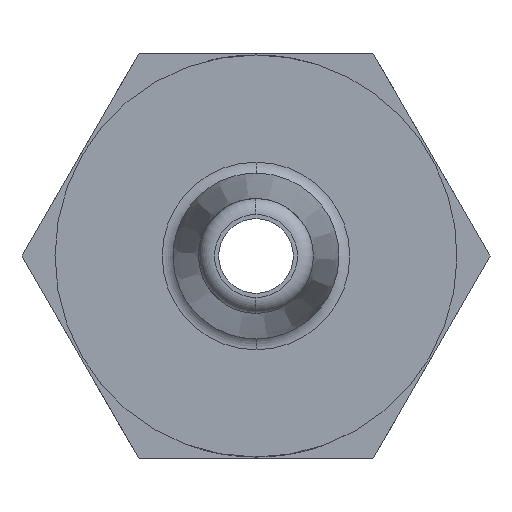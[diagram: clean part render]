
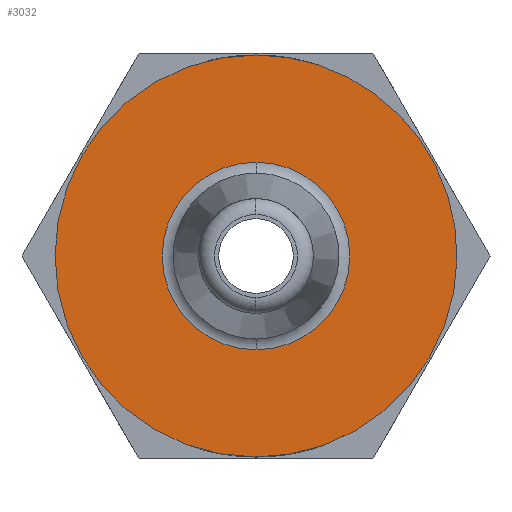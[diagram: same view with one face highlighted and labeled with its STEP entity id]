
A CAD part, left-side view. The second image highlights one B-rep face of the part: STEP entity #3032.
In plain terms, the highlighted planar face has unit normal (-1, 0, 0).
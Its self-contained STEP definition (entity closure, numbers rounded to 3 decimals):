
#69=PLANE('',#3320);
#172=FACE_BOUND('',#503,.T.);
#319=FACE_OUTER_BOUND('',#502,.T.);
#502=EDGE_LOOP('',(#2302,#2303));
#503=EDGE_LOOP('',(#2304,#2305));
#681=CIRCLE('',#3227,3.15);
#682=CIRCLE('',#3228,3.15);
#719=CIRCLE('',#3276,1.469);
#749=CIRCLE('',#3321,1.469);
#1293=VERTEX_POINT('',#4903);
#1294=VERTEX_POINT('',#4905);
#1418=VERTEX_POINT('',#5801);
#1419=VERTEX_POINT('',#5802);
#1618=EDGE_CURVE('',#1294,#1293,#681,.T.);
#1619=EDGE_CURVE('',#1293,#1294,#682,.T.);
#1747=EDGE_CURVE('',#1418,#1419,#719,.T.);
#1797=EDGE_CURVE('',#1419,#1418,#749,.T.);
#2302=ORIENTED_EDGE('',*,*,#1618,.T.);
#2303=ORIENTED_EDGE('',*,*,#1619,.T.);
#2304=ORIENTED_EDGE('',*,*,#1797,.T.);
#2305=ORIENTED_EDGE('',*,*,#1747,.T.);
#3032=ADVANCED_FACE('',(#319,#172),#69,.F.);
#3227=AXIS2_PLACEMENT_3D('',#4906,#3549,#3550);
#3228=AXIS2_PLACEMENT_3D('',#4907,#3551,#3552);
#3276=AXIS2_PLACEMENT_3D('',#5803,#3685,#3686);
#3320=AXIS2_PLACEMENT_3D('',#5903,#3792,#3793);
#3321=AXIS2_PLACEMENT_3D('',#5904,#3794,#3795);
#3549=DIRECTION('center_axis',(-1.,0.,0.));
#3550=DIRECTION('ref_axis',(0.,0.,1.));
#3551=DIRECTION('center_axis',(-1.,0.,0.));
#3552=DIRECTION('ref_axis',(0.,0.,1.));
#3685=DIRECTION('center_axis',(1.,0.,0.));
#3686=DIRECTION('ref_axis',(0.,0.,
1.));
#3792=DIRECTION('center_axis',(1.,0.,0.));
#3793=DIRECTION('ref_axis',(0.,0.,-1.));
#3794=DIRECTION('center_axis',(1.,0.,0.));
#3795=DIRECTION('ref_axis',(0.,0.,-1.));
#4903=CARTESIAN_POINT('',(-6.225,-3.15,-0.03));
#4905=CARTESIAN_POINT('',(-6.225,0.,3.15));
#4906=CARTESIAN_POINT('Origin',(-6.225,0.,0.));
#4907=CARTESIAN_POINT('Origin',(-6.225,0.,0.));
#5801=CARTESIAN_POINT('',(-6.225,0.,1.469));
#5802=CARTESIAN_POINT('',(-6.225,0.,-1.469));
#5803=CARTESIAN_POINT('Origin',(-6.225,0.,0.));
#5903=CARTESIAN_POINT('Origin',(-6.225,-3.188,0.));
#5904=CARTESIAN_POINT('Origin',(-6.225,0.,0.));
